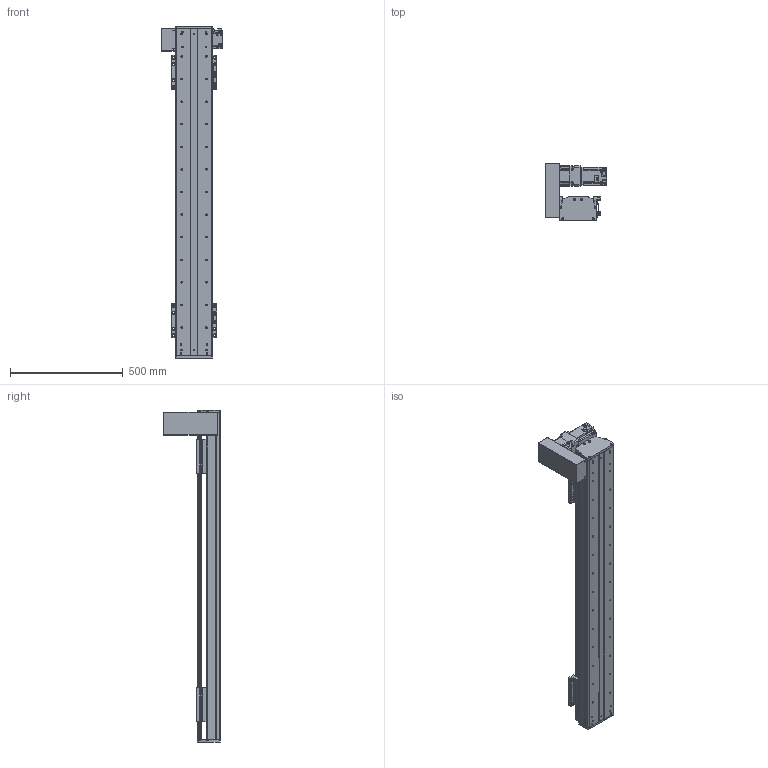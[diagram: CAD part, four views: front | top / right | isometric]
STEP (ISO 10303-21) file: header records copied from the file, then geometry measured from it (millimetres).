
FILE_DESCRIPTION(/* description */ (''),/* implementation_level */ '2;1');
FILE_NAME(/* name */ 'C:\Users\PC\Desktop\3D도면\STEP\DSB165-UL7G-W1100-R.stp',/* time_stamp */ '2018-06-25T15:06:35+09:00',/* author */ ('PC'),/* organization */ (''),/* preprocessor_version */ 'ST-DEVELOPER v16.5',/* originating_system */ 'Autodesk Inventor 2017',/* authorisation */ '');
FILE_SCHEMA (('AUTOMOTIVE_DESIGN { 1 0 10303 214 3 1 1 }'));
Length unit declared in the file: millimetre
Products named in the file (12): DSB165-L; DSR165-BASE_S; hg-kr73_; ab0901-p0401300102; 11-DBS165 BELT COVER; DBS165-COVER; DBS165-COVER_1; DBS165-UP COVER; DSR126-SENSOR DOG; pm-y65_step; SENSOR BRACKET(EE-SX674A); DBS165-TABLE(MSA20S)
Assembly tree (16 placements, depth 2):
  DSB165-L
    DSR165-BASE_S
    hg-kr73_
    ab0901-p0401300102
    11-DBS165 BELT COVER
    DBS165-COVER
    DBS165-COVER_1
    DBS165-UP COVER
    DSR126-SENSOR DOG
    pm-y65_step  x3
    SENSOR BRACKET(EE-SX674A)  x3
    DBS165-TABLE(MSA20S)  x2
Bounding box: 270 x 254 x 1470 mm (x, y, z)
Volume: 9324128.9 mm3; surface area: 2162932.2 mm2
Topology: 17 solids, 22 shells, 1683 faces, 4515 edges, 2976 vertices
Faces by surface type: plane 926, cylinder 627, cone 118, sphere 8, torus 4
Full cylindrical faces by diameter (mm): 2.459 x20, 3.5 x6, 4.134 x42, 4.5 x18, 5 x27, 5.5 x36, 5.9 x4, 6 x8, 6.6 x14, 6.647 x46, 6.8 x1, 7 x4, 7.6 x4, 8 x1, 8.4 x1, 8.5 x24, 8.7 x1, 9.5 x32, 11 x6, 14 x16, 19 x1, 22 x1, 24 x1, 25 x1, 28 x1, 67 x1, 70 x2, 80 x1
Entity records: 35789 total; most frequent: DIRECTION 6332, CARTESIAN_POINT 6127, ORIENTED_EDGE 5566, EDGE_CURVE 2788, AXIS2_PLACEMENT_3D 2336, VERTEX_POINT 1993, EDGE_LOOP 1763, LINE 1660
